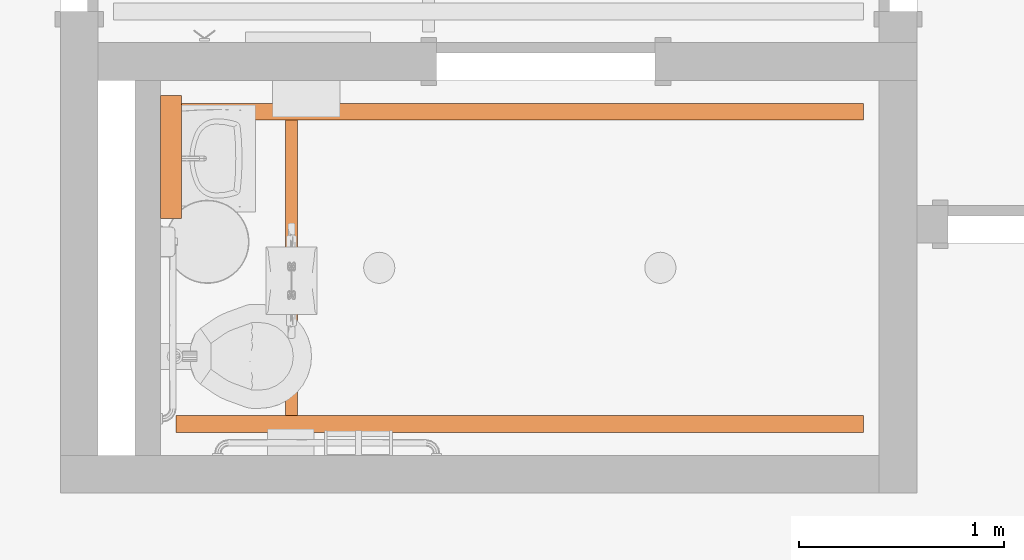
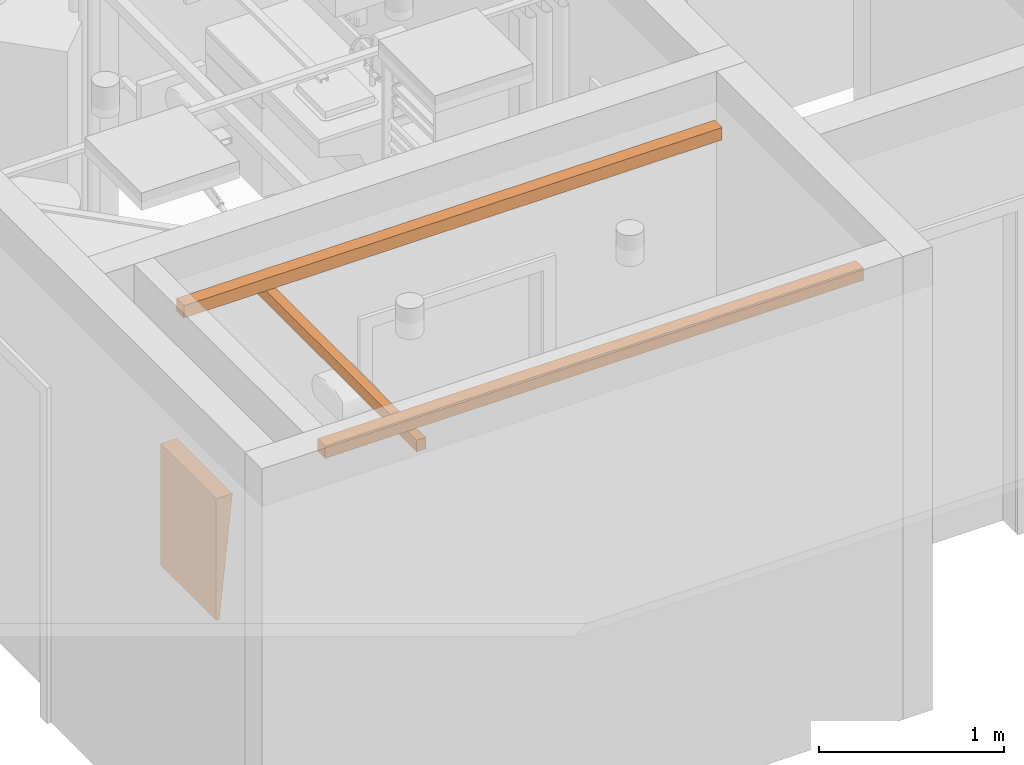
# One storey, part 8 of 142: 2 proxies.
"""IFC2X3 building model written with IfcOpenShell, lengths in feet."""

import ifcopenshell
import ifcopenshell.guid

model = None  # the IFC model being written
_history = None  # IfcOwnerHistory: only IFC2X3 demands one
_inside = {}  # id of a spatial element -> (the spatial element, [elements in it])
_under = {}  # id of a project, library or spatial element -> (it, [spatial elements below it])
_declared = {}  # id of a project -> (the project, [libraries it declares])
_typed = {}  # id of a type object -> (the type object, [elements of that type])
_made_of = {}  # id of a material, layer set ... -> (it, [elements and type objects made of it])


def new_model(schema):
    """Start an empty IFC model of exactly this schema.

    Asked for "IFC4X3", IfcOpenShell would pick the latest addendum, in which some entities
    have other attributes; the version numbers below select the first issue.
    IFC2X3 requires an IfcOwnerHistory on every rooted entity: one is made here for all.
    """
    global model, _history
    if schema == "IFC4X3":
        model = ifcopenshell.file(schema_version=(4, 3, 0, 0))
    else:
        model = ifcopenshell.file(schema=schema)
    _inside.clear()
    _under.clear()
    _declared.clear()
    _typed.clear()
    _made_of.clear()
    _history = None
    if model.schema == "IFC2X3":
        org = make("IfcOrganization", Name="unknown")
        user = make(
            "IfcPersonAndOrganization",
            ThePerson=make("IfcPerson", FamilyName="unknown"),
            TheOrganization=org,
        )
        app = make(
            "IfcApplication",
            ApplicationDeveloper=org,
            Version="unknown",
            ApplicationFullName="unknown",
            ApplicationIdentifier="unknown",
        )
        _history = make(
            "IfcOwnerHistory",
            OwningUser=user,
            OwningApplication=app,
            ChangeAction="ADDED",
            CreationDate=0,
        )
    return model


def make(cls, **values):
    """One entity of the class cls with the attributes given. An attribute that is None is left unset."""
    return model.create_entity(
        cls, **{name: value for name, value in values.items() if value is not None}
    )


def entity(cls, *values):
    """Any entity or typed value of the class cls, its attributes in the order of the schema. None: left unset."""
    e = model.create_entity(cls)
    for i, value in enumerate(values):
        if value is not None:
            e[i] = value
    return e


def rooted(cls, **values):
    """An entity with a GlobalId (a new one), such as an element, a storey or a relation."""
    return make(cls, GlobalId=ifcopenshell.guid.new(), OwnerHistory=_history, **values)


def si_unit(unit_type, name, prefix=None):
    """IfcSIUnit, for example si_unit("LENGTHUNIT", "METRE", prefix="MILLI")."""
    return make("IfcSIUnit", UnitType=unit_type, Prefix=prefix, Name=name)


def converted_unit(unit_type, name, factor, base, dimensions=None, offset=None):
    """IfcConversionBasedUnit, such as the inch: factor (a typed value) times the base unit."""
    return make(
        "IfcConversionBasedUnit"
        if offset is None
        else "IfcConversionBasedUnitWithOffset",
        ConversionOffset=offset,
        Dimensions=None
        if dimensions is None
        else entity("IfcDimensionalExponents", *dimensions),
        UnitType=unit_type,
        Name=name,
        ConversionFactor=make(
            "IfcMeasureWithUnit", ValueComponent=factor, UnitComponent=base
        ),
    )


def derived_unit(unit_type, elements):
    """IfcDerivedUnit: a product of units, each with its exponent."""
    return make(
        "IfcDerivedUnit",
        Elements=[
            make("IfcDerivedUnitElement", Unit=unit, Exponent=power)
            for unit, power in elements
        ],
        UnitType=unit_type,
    )


def assignment(units):
    """IfcUnitAssignment: the units of a project."""
    return None if units is None else make("IfcUnitAssignment", Units=units)


def point(xyz):
    """IfcCartesianPoint."""
    return None if xyz is None else make("IfcCartesianPoint", Coordinates=xyz)


def direction(xyz):
    """IfcDirection."""
    return None if xyz is None else make("IfcDirection", DirectionRatios=xyz)


def frame(location, z_axis=None, x_axis=None):
    """IfcAxis2Placement3D, a coordinate frame: its origin and axes. An axis left out is left unset."""
    return make(
        "IfcAxis2Placement3D",
        Location=point(location),
        Axis=direction(z_axis),
        RefDirection=direction(x_axis),
    )


def frame_2d(location, x_axis=None):
    """IfcAxis2Placement2D, a coordinate frame in the plane: its origin and x axis."""
    return make(
        "IfcAxis2Placement2D", Location=point(location), RefDirection=direction(x_axis)
    )


def origin():
    """The frame at (0, 0, 0) with its axes left unset."""
    return frame((0.0, 0.0, 0.0))


def origin_2d_with_axis():
    """The frame at (0, 0) in the plane with the x axis (1, 0) written out."""
    return frame_2d((0.0, 0.0), x_axis=(1.0, 0.0))


def place(relative_to, where):
    """IfcLocalPlacement: puts the frame where relative to a parent placement (None: the world)."""
    return make(
        "IfcLocalPlacement", PlacementRelTo=relative_to, RelativePlacement=where
    )


def context(
    kind, dimensions, precision=None, world=None, true_north=None, identifier=None
):
    """IfcGeometricRepresentationContext, for example the 3D "Model" context."""
    return make(
        "IfcGeometricRepresentationContext",
        ContextIdentifier=identifier,
        ContextType=kind,
        CoordinateSpaceDimension=dimensions,
        Precision=precision,
        WorldCoordinateSystem=world,
        TrueNorth=true_north,
    )


def subcontext(parent, identifier, kind, view, scale=None):
    """IfcGeometricRepresentationSubContext, for example "Body" below "Model"."""
    return make(
        "IfcGeometricRepresentationSubContext",
        ContextIdentifier=identifier,
        ContextType=kind,
        ParentContext=parent,
        TargetScale=scale,
        TargetView=view,
    )


def project(units=None, contexts=None):
    """IfcProject with its units and contexts."""
    return rooted(
        "IfcProject",
        Name="project",
        RepresentationContexts=contexts,
        UnitsInContext=assignment(units),
    )


def spatial(cls, under=None, at=None, **own):
    """A site, building, storey or space (cls), placed at a placement, below another one or the project."""
    s = rooted(cls, ObjectPlacement=at, **own)
    if under is not None:
        _under.setdefault(under.id(), (under, []))[1].append(s)
    return s


def polyline(points):
    """IfcPolyline through the points."""
    return make("IfcPolyline", Points=[point(p) for p in points])


def profile(cls, at=None, kind="AREA", **sizes):
    """A parametric profile (cls). Its sizes go by their IFC names, for example OverallWidth=200.0."""
    return make(cls, ProfileType=kind, Position=at, **sizes)


def rectangle(**sizes):
    """IfcRectangleProfileDef."""
    return profile("IfcRectangleProfileDef", **sizes)


def outline(outer, holes=None, kind="AREA"):
    """IfcArbitraryClosedProfileDef: a profile drawn as a closed curve; with holes, ...WithVoids."""
    if holes is None:
        return make("IfcArbitraryClosedProfileDef", ProfileType=kind, OuterCurve=outer)
    return make(
        "IfcArbitraryProfileDefWithVoids",
        ProfileType=kind,
        OuterCurve=outer,
        InnerCurves=holes,
    )


def extrude(swept, where, along, depth):
    """IfcExtrudedAreaSolid: the profile swept, set in the frame where, extruded along a direction by depth."""
    return make(
        "IfcExtrudedAreaSolid",
        SweptArea=swept,
        Position=where,
        ExtrudedDirection=direction(along),
        Depth=depth,
    )


def shape(context_of_items, identifier, shape_type, items):
    """IfcShapeRepresentation: the items that make up one representation, for example the "Body"."""
    return make(
        "IfcShapeRepresentation",
        ContextOfItems=context_of_items,
        RepresentationIdentifier=identifier,
        RepresentationType=shape_type,
        Items=items,
    )


def source(mapping_origin, context_of_items, identifier, shape_type, items):
    """IfcRepresentationMap: a shape defined once, which mapped items show again and again."""
    return make(
        "IfcRepresentationMap",
        MappingOrigin=mapping_origin,
        MappedRepresentation=shape(context_of_items, identifier, shape_type, items),
    )


def transform(
    local_origin,
    x_axis=None,
    y_axis=None,
    z_axis=None,
    scale=None,
    scale2=None,
    scale3=None,
    uniform=True,
):
    """IfcCartesianTransformationOperator3D, or its non-uniform kind. x_axis, y_axis, z_axis: its Axis1, 2, 3."""
    if uniform:
        return make(
            "IfcCartesianTransformationOperator3D",
            Axis1=direction(x_axis),
            Axis2=direction(y_axis),
            LocalOrigin=point(local_origin),
            Scale=scale,
            Axis3=direction(z_axis),
        )
    return make(
        "IfcCartesianTransformationOperator3DnonUniform",
        Axis1=direction(x_axis),
        Axis2=direction(y_axis),
        LocalOrigin=point(local_origin),
        Scale=scale,
        Axis3=direction(z_axis),
        Scale2=scale2,
        Scale3=scale3,
    )


def mapped(mapping_source, mapping_target):
    """IfcMappedItem: shows the shape of a source again, moved by a transform."""
    return make(
        "IfcMappedItem", MappingSource=mapping_source, MappingTarget=mapping_target
    )


def made_of(thing, what):
    """Note that an element or type object is made of a material, layer set ...; save() writes the relation."""
    if what is not None:
        _made_of.setdefault(what.id(), (what, []))[1].append(thing)
    return thing


def type_object(cls, material=None, **own):
    """A type object (cls), such as IfcWallType, which elements share."""
    return made_of(rooted(cls, **own), material)


def type_shapes(of_type, sources):
    """Give a type object the sources (RepresentationMaps) that its elements show as mapped items."""
    of_type.RepresentationMaps = sources


def element(
    cls,
    number,
    at=None,
    inside=None,
    cuts=None,
    type_object=None,
    material=None,
    context=None,
    identifier="Body",
    shape_type=None,
    held_by="IfcProductDefinitionShape",
    body=None,
    shapes=None,
    **own,
):
    """One element of the class cls, such as IfcWall. Its Tag is "e" and its number.

    at: its placement. inside: the storey or other place that contains it. cuts: it is an
    opening in that element (IfcRelVoidsElement). A single representation is given by context,
    identifier, shape_type and body (its items); several are given by shapes. held_by: the class
    of the entity that holds the representations. save() writes the other relations.
    """
    e = rooted(cls, Tag="e%d" % number, ObjectPlacement=at, **own)
    if body is not None:
        shapes = [shape(context, identifier, shape_type, body)]
    if shapes is not None:
        e.Representation = make(held_by, Representations=shapes)
    if inside is not None:
        _inside.setdefault(inside.id(), (inside, []))[1].append(e)
    if cuts is not None:
        rooted(
            "IfcRelVoidsElement", RelatingBuildingElement=cuts, RelatedOpeningElement=e
        )
    if type_object is not None:
        _typed.setdefault(type_object.id(), (type_object, []))[1].append(e)
    return made_of(e, material)


def aggregate(whole, parts):
    """IfcRelAggregates: a whole, such as a stair, and the parts it consists of."""
    return rooted("IfcRelAggregates", RelatingObject=whole, RelatedObjects=parts)


def save(model, path):
    """Write the relations noted so far, then the file.

    IfcRelAggregates (storeys below a building ...), IfcRelContainedInSpatialStructure (elements
    in a storey), IfcRelDefinesByType, IfcRelAssociatesMaterial and IfcRelDeclares: one each for
    every whole, place, type object, material and project.
    """
    for whole, parts in _under.values():
        aggregate(whole, parts)
    for where, things in _inside.values():
        rooted(
            "IfcRelContainedInSpatialStructure",
            RelatedElements=things,
            RelatingStructure=where,
        )
    for kind, things in _typed.values():
        rooted("IfcRelDefinesByType", RelatedObjects=things, RelatingType=kind)
    for what, things in _made_of.values():
        rooted("IfcRelAssociatesMaterial", RelatedObjects=things, RelatingMaterial=what)
    for by, libraries in _declared.values():
        rooted("IfcRelDeclares", RelatingContext=by, RelatedDefinitions=libraries)
    model.write(path)


model = new_model("IFC2X3")

# Units and contexts
model_context = context("Model", 3, precision=0.0001, world=origin(), true_north=direction((6.12303176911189e-17, 1.0)))
body_context = subcontext(model_context, "Body", "Model", "MODEL_VIEW")
ifc_project = project(units=[converted_unit("LENGTHUNIT", "FOOT", entity("IfcRatioMeasure", 0.3048), si_unit("LENGTHUNIT", "METRE"), dimensions=[1, 0, 0, 0, 0, 0, 0]), converted_unit("AREAUNIT", "SQUARE FOOT", entity("IfcRatioMeasure", 0.09290304), si_unit("AREAUNIT", "SQUARE_METRE"), dimensions=[2, 0, 0, 0, 0, 0, 0]), converted_unit("VOLUMEUNIT", "CUBIC FOOT", entity("IfcRatioMeasure", 0.028316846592), si_unit("VOLUMEUNIT", "CUBIC_METRE"), dimensions=[3, 0, 0, 0, 0, 0, 0]), converted_unit("PLANEANGLEUNIT", "DEGREE", entity("IfcRatioMeasure", 0.0174532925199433), si_unit("PLANEANGLEUNIT", "RADIAN"), dimensions=[0, 0, 0, 0, 0, 0, 0]), si_unit("MASSUNIT", "GRAM", prefix="KILO"), derived_unit("MASSDENSITYUNIT", [(si_unit("MASSUNIT", "GRAM", prefix="KILO"), 1), (si_unit("LENGTHUNIT", "METRE"), -3)]), si_unit("TIMEUNIT", "SECOND"), si_unit("FREQUENCYUNIT", "HERTZ"), si_unit("THERMODYNAMICTEMPERATUREUNIT", "DEGREE_CELSIUS"), derived_unit("THERMALTRANSMITTANCEUNIT", [(si_unit("MASSUNIT", "GRAM", prefix="KILO"), 1), (si_unit("THERMODYNAMICTEMPERATUREUNIT", "KELVIN"), -1), (si_unit("TIMEUNIT", "SECOND"), -3)]), derived_unit("VOLUMETRICFLOWRATEUNIT", [(si_unit("LENGTHUNIT", "METRE"), 3), (si_unit("TIMEUNIT", "SECOND"), -1)]), si_unit("ELECTRICCURRENTUNIT", "AMPERE"), si_unit("ELECTRICVOLTAGEUNIT", "VOLT"), si_unit("POWERUNIT", "WATT"), si_unit("FORCEUNIT", "NEWTON"), si_unit("ILLUMINANCEUNIT", "LUX"), si_unit("LUMINOUSFLUXUNIT", "LUMEN"), si_unit("LUMINOUSINTENSITYUNIT", "CANDELA"), derived_unit("USERDEFINED", [(si_unit("MASSUNIT", "GRAM", prefix="KILO"), -1), (si_unit("LENGTHUNIT", "METRE"), -2), (si_unit("TIMEUNIT", "SECOND"), 3), (si_unit("LUMINOUSFLUXUNIT", "LUMEN"), 1)]), derived_unit("LINEARVELOCITYUNIT", [(si_unit("LENGTHUNIT", "METRE"), 1), (si_unit("TIMEUNIT", "SECOND"), -1)]), si_unit("PRESSUREUNIT", "PASCAL"), derived_unit("USERDEFINED", [(si_unit("LENGTHUNIT", "METRE"), -2), (si_unit("MASSUNIT", "GRAM", prefix="KILO"), 1), (si_unit("TIMEUNIT", "SECOND"), -2)])], contexts=[model_context])

# Site, building, storey, space
site_placement = place(None, origin())
site = spatial("IfcSite", under=ifc_project, at=site_placement, Name="Default", CompositionType="ELEMENT")
building_placement = place(site_placement, origin())
building = spatial("IfcBuilding", under=site, at=building_placement, Name="OUTPATIENT / PACT CLINIC (Ch. 265)", CompositionType="ELEMENT")
storey_placement = place(building_placement, origin())
storey = spatial("IfcBuildingStorey", under=building, at=storey_placement, Name="LEVEL 1", CompositionType="ELEMENT", Elevation=0.0)
space_placement = place(storey_placement, origin())
space = spatial("IfcSpace", under=storey, at=space_placement, Name="TNPG1", CompositionType="ELEMENT", InteriorOrExteriorSpace="INTERNAL")

# Proxies
building_element_proxy_type_1 = type_object("IfcBuildingElementProxyType", Name="A1067 - Mirror, Float Glass, ADA Accessible 12\"x 6\"", PredefinedType="NOTDEFINED")
shared_shape_1 = source(origin(), body_context, "Body", "SweptSolid", [
    extrude(outline(polyline([(-1.31233595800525, -0.099737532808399), (1.31233595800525, -0.099737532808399), (1.31233595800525, -0.0341207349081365), (-1.31233595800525, 0.233595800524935), (-1.31233595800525, -0.099737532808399)])), frame((0.0, 0.0997375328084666, 1.31266404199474), z_axis=(1.0, 0.0, 0.0), x_axis=(0.0, 0.0, -1.0)), (0.0, 0.0, 1.0), 1.96850393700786),
])
type_shapes(building_element_proxy_type_1, [shared_shape_1])
proxy_1_placement = place(space_placement, frame((391.963449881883, -946.889287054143, 3.5), z_axis=(0.0, 0.0, 1.0), x_axis=(0.0, -1.0, 0.0)))
element("IfcBuildingElementProxy", 1, at=proxy_1_placement, inside=space, type_object=building_element_proxy_type_1, Name="A1067 - Mirror, Float Glass, ADA Accessible:A1067 - Mirror, Float Glass, ADA Accessible 12\"x 6\"", ObjectType="A1067 - Mirror, Float Glass, ADA Accessible 12\"x 6\"", context=body_context, shape_type="MappedRepresentation", body=[
    mapped(shared_shape_1, transform((0.0, 0.0, 0.0), scale=1.0)),
])
building_element_proxy_type_2 = type_object("IfcBuildingElementProxyType", Name="A1203 Lift System, Overhead, Bariatric", PredefinedType="NOTDEFINED")
shared_shape_2 = source(origin(), body_context, "Body", "SweptSolid", [
    extrude(rectangle(XDim=5.66661861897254, YDim=0.190288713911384, at=frame_2d((-2.22044604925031e-16, 0.0), x_axis=(1.0, 0.0))), frame((0.244358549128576, 3.65329410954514, 8.63910761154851), z_axis=(0.0, 0.0, 1.0), x_axis=(-1.0, 0.0, 0.0)), (0.0, 0.0, 1.0), 0.249343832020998),
    extrude(rectangle(XDim=10.9998599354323, YDim=0.267060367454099, at=frame_2d((0.0, 4.44089209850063e-16), x_axis=(1.0, 0.0))), frame((2.74433452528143, 0.0, 8.99015748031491), z_axis=(0.0, 0.0, 1.0), x_axis=(0.0, 1.0, 0.0)), (0.0, 0.0, 1.0), 0.265748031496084),
    extrude(rectangle(XDim=10.9998599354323, YDim=0.267060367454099, at=origin_2d_with_axis()), frame((-2.25561742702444, 0.0, 8.99015748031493), z_axis=(0.0, 0.0, 1.0), x_axis=(0.0, 1.0, 0.0)), (0.0, 0.0, 1.0), 0.265748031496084),
])
type_shapes(building_element_proxy_type_2, [shared_shape_2])
proxy_2_placement = place(space_placement, frame((397.713379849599, -949.894038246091, 0.0), z_axis=(0.0, 0.0, 1.0), x_axis=(0.0, 1.0, 0.0)))
element("IfcBuildingElementProxy", 2, at=proxy_2_placement, inside=space, type_object=building_element_proxy_type_2, Name="A1203 Lift System, Overhead, Bariatric (Traverse):A1203 Lift System, Overhead, Bariatric", ObjectType="A1203 Lift System, Overhead, Bariatric", context=body_context, shape_type="MappedRepresentation", body=[
    mapped(shared_shape_2, transform((0.0, 0.0, 0.0), scale=1.0)),
])

save(model, "model.ifc")
